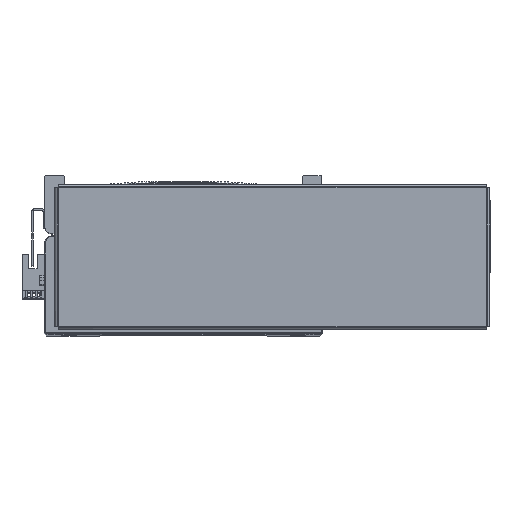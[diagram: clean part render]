
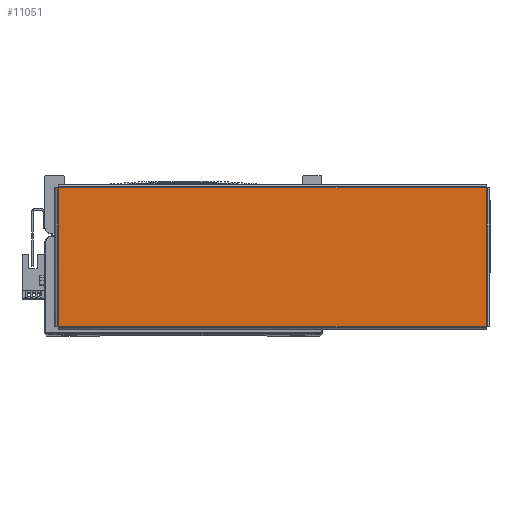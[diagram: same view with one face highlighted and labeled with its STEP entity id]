
A CAD part, top view. The second image highlights one B-rep face of the part: STEP entity #11051.
In plain terms, the highlighted planar face has unit normal (0, 0, 1) as drawn and (0, -1, 0) by its records, which use the part's own axes.
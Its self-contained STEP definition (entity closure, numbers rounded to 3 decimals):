
#9394 = EDGE_CURVE ( 'NONE', #48280, #48318, #62530, .T. ) ;
#11051 = ADVANCED_FACE ( 'NONE', ( #25666 ), #18731, .F. ) ;
#15538 = CARTESIAN_POINT ( 'NONE',  ( -130.863, -1.5, 42.293 ) ) ;
#15545 = DIRECTION ( 'NONE',  ( 0., 0., -1. ) ) ;
#15565 = DIRECTION ( 'NONE',  ( -1., 0., 0. ) ) ;
#15601 = CARTESIAN_POINT ( 'NONE',  ( 130.893, -1.5, 42.263 ) ) ;
#15669 = CARTESIAN_POINT ( 'NONE',  ( -130.893, -1.5, -42.263 ) ) ;
#15735 = DIRECTION ( 'NONE',  ( 1., 0., 0. ) ) ;
#16790 = VECTOR ( 'NONE', #15565, 1000. ) ;
#16795 = VECTOR ( 'NONE', #15545, 1000. ) ;
#16827 = LINE ( 'NONE', #15538, #16795 ) ;
#16830 = LINE ( 'NONE', #15601, #16790 ) ;
#16876 = VECTOR ( 'NONE', #15735, 1000. ) ;
#16883 = LINE ( 'NONE', #15669, #16876 ) ;
#18731 = PLANE ( 'NONE',  #27730 ) ;
#18732 = CARTESIAN_POINT ( 'NONE',  ( 0., -1.5, 0. ) ) ;
#18734 = DIRECTION ( 'NONE',  ( 0., 1., 0. ) ) ;
#18735 = DIRECTION ( 'NONE',  ( 0., 0., 1. ) ) ;
#25666 = FACE_OUTER_BOUND ( 'NONE', #58052, .T. ) ;
#27730 = AXIS2_PLACEMENT_3D ( 'NONE', #18732, #18734, #18735 ) ;
#35860 = ORIENTED_EDGE ( 'NONE', *, *, #9394, .T. ) ;
#35869 = ORIENTED_EDGE ( 'NONE', *, *, #39578, .T. ) ;
#35880 = ORIENTED_EDGE ( 'NONE', *, *, #39551, .T. ) ;
#35884 = ORIENTED_EDGE ( 'NONE', *, *, #39629, .T. ) ;
#39551 = EDGE_CURVE ( 'NONE', #48314, #48273, #16827, .T. ) ;
#39578 = EDGE_CURVE ( 'NONE', #48318, #48314, #16830, .T. ) ;
#39629 = EDGE_CURVE ( 'NONE', #48273, #48280, #16883, .T. ) ;
#47264 = CARTESIAN_POINT ( 'NONE',  ( -130.863, -1.5, -42.263 ) ) ;
#47266 = CARTESIAN_POINT ( 'NONE',  ( 130.863, -1.5, -42.263 ) ) ;
#47339 = CARTESIAN_POINT ( 'NONE',  ( -130.863, -1.5, 42.263 ) ) ;
#47350 = CARTESIAN_POINT ( 'NONE',  ( 130.863, -1.5, 42.263 ) ) ;
#48273 = VERTEX_POINT ( 'NONE', #47264 ) ;
#48280 = VERTEX_POINT ( 'NONE', #47266 ) ;
#48314 = VERTEX_POINT ( 'NONE', #47339 ) ;
#48318 = VERTEX_POINT ( 'NONE', #47350 ) ;
#58052 = EDGE_LOOP ( 'NONE', ( #35860, #35869, #35880, #35884 ) ) ;
#62530 = LINE ( 'NONE', #65674, #62543 ) ;
#62543 = VECTOR ( 'NONE', #65662, 1000. ) ;
#65662 = DIRECTION ( 'NONE',  ( 0., 0., 1. ) ) ;
#65674 = CARTESIAN_POINT ( 'NONE',  ( 130.863, -1.5, -42.293 ) ) ;
